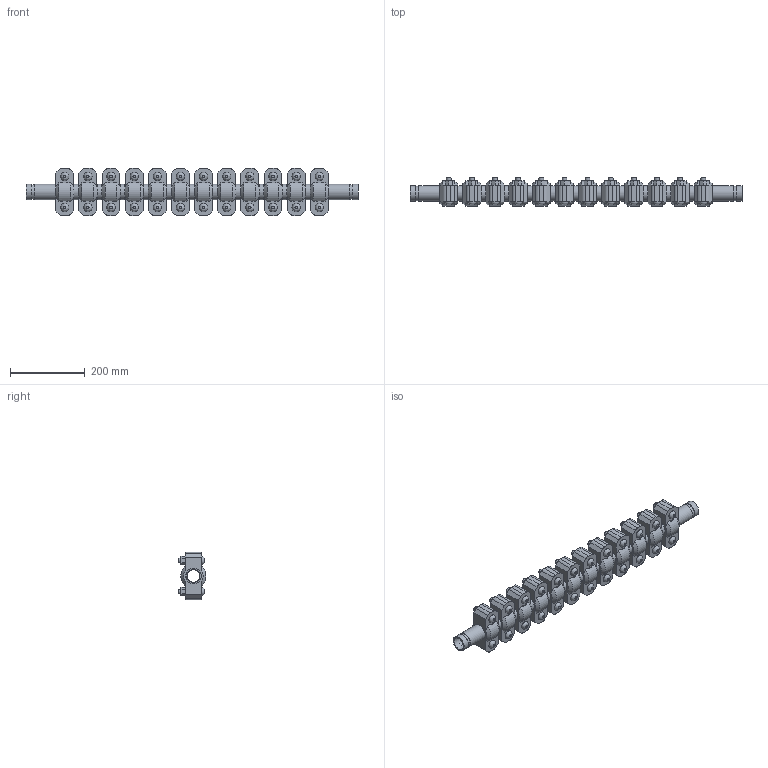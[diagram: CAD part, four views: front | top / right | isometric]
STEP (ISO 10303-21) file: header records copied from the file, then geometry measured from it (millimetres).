
FILE_DESCRIPTION(/* description */ ('VIC EXPANSION JOINT 12 COUPLINGS EXPANDED STYLE 155 (OGS)','CAx-IF Rec.Pracs.---Representation and Presentation of Product Manufacturing Information (PMI)---4.0---2014-10-13'),/* implementation_level */ '2;1');
FILE_NAME(/* name */ 'C:\Users\kkamble\AppData\Roaming\Autodesk\ApplicationPlugins\Victaulic.Temp\A519\Victaulic_IPS_Expansion Joint_Expanded_12 Couplings_Style 155 (OGS)_1.25 (32).stp',/* time_stamp */ '2021-06-26T23:53:55+02:00',/* author */ ('kkamble'),/* organization */ ('Victaulic'),/* preprocessor_version */ 'ST-DEVELOPER v17.2',/* originating_system */ 'Autodesk Inventor 2019',/* authorisation */ '');
FILE_SCHEMA (('AP242_MANAGED_MODEL_BASED_3D_ENGINEERING_MIM_LF { 1 0 10303 442 1 1 4 }'));
Length unit declared in the file: inch
Products named in the file (4): 155-01.25; Nipple-01.25; Nipple-01.25_1; 077-01.25
Assembly tree (25 placements, depth 2):
  155-01.25
    Nipple-01.25  x2
    Nipple-01.25_1  x11
    077-01.25  x12
Bounding box: 889.25 x 74.93 x 127 mm (x, y, z)
Volume: 3106841.5 mm3; surface area: 734840.2 mm2
Topology: 25 solids, 49 shells, 888 faces, 2130 edges, 1488 vertices
Faces by surface type: plane 510, cylinder 306, cone 48, bspline 24
Full cylindrical faces by diameter (mm): 12.7 x48, 14.605 x24, 33.274 x12, 35.052 x13, 38.989 x26, 42.164 x63
Entity records: 3081 total; most frequent: CARTESIAN_POINT 569, DIRECTION 513, ORIENTED_EDGE 410, AXIS2_PLACEMENT_3D 208, EDGE_CURVE 205, VERTEX_POINT 146, EDGE_LOOP 111, LINE 97
